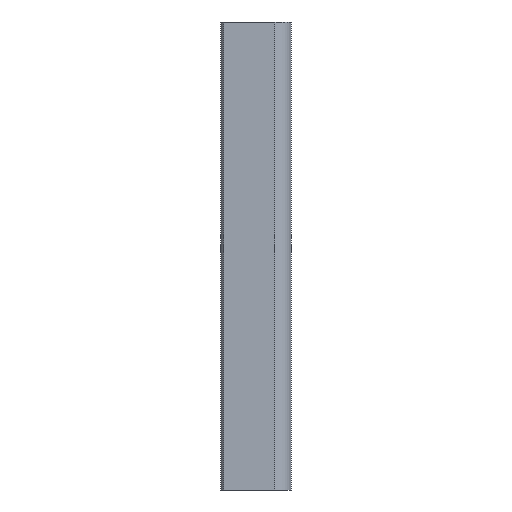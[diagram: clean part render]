
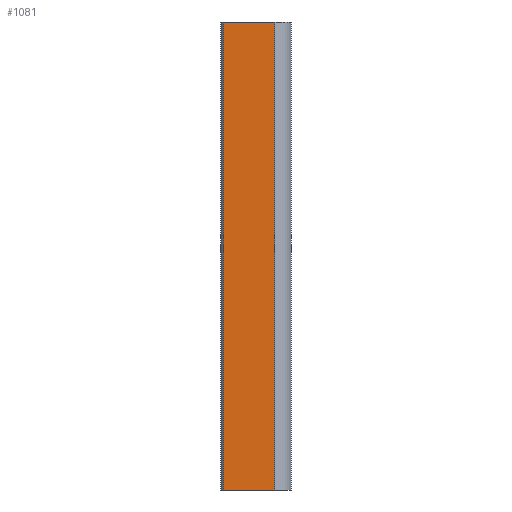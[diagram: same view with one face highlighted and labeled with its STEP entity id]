
A CAD part, front view. The second image highlights one B-rep face of the part: STEP entity #1081.
In plain terms, the highlighted planar face has unit normal (0, -1, 0).
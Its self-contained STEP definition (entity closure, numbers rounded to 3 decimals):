
#161=DIRECTION('',(1.,0.,0.));
#162=VECTOR('',#161,10.956);
#163=CARTESIAN_POINT('',(-6.142,-9.833,-50.));
#164=LINE('',#163,#162);
#247=DIRECTION('',(0.,0.,1.));
#248=VECTOR('',#247,100.);
#249=CARTESIAN_POINT('',(4.813,-9.833,-50.));
#250=LINE('',#249,#248);
#251=DIRECTION('',(0.,0.,1.));
#252=VECTOR('',#251,100.);
#253=CARTESIAN_POINT('',(-6.142,-9.833,-50.));
#254=LINE('',#253,#252);
#414=DIRECTION('',(1.,0.,0.));
#415=VECTOR('',#414,10.956);
#416=CARTESIAN_POINT('',(-6.142,-9.833,50.));
#417=LINE('',#416,#415);
#753=CARTESIAN_POINT('',(-6.142,-9.833,-50.));
#754=VERTEX_POINT('',#753);
#755=CARTESIAN_POINT('',(4.813,-9.833,-50.));
#756=VERTEX_POINT('',#755);
#859=CARTESIAN_POINT('',(-6.142,-9.833,50.));
#860=VERTEX_POINT('',#859);
#861=CARTESIAN_POINT('',(4.813,-9.833,50.));
#862=VERTEX_POINT('',#861);
#1068=CARTESIAN_POINT('',(-6.142,-9.833,-50.));
#1069=DIRECTION('',(0.,-1.,0.));
#1070=DIRECTION('',(1.,0.,0.));
#1071=AXIS2_PLACEMENT_3D('',#1068,#1069,#1070);
#1072=PLANE('',#1071);
#1073=ORIENTED_EDGE('',*,*,#970,.F.);
#1075=ORIENTED_EDGE('',*,*,#1074,.T.);
#1077=ORIENTED_EDGE('',*,*,#1076,.T.);
#1078=ORIENTED_EDGE('',*,*,#1060,.F.);
#1079=EDGE_LOOP('',(#1073,#1075,#1077,#1078));
#1080=FACE_OUTER_BOUND('',#1079,.F.);
#1081=ADVANCED_FACE('',(#1080),#1072,.T.);
#970=EDGE_CURVE('',#754,#756,#164,.T.);
#1060=EDGE_CURVE('',#756,#862,#250,.T.);
#1074=EDGE_CURVE('',#754,#860,#254,.T.);
#1076=EDGE_CURVE('',#860,#862,#417,.T.);
